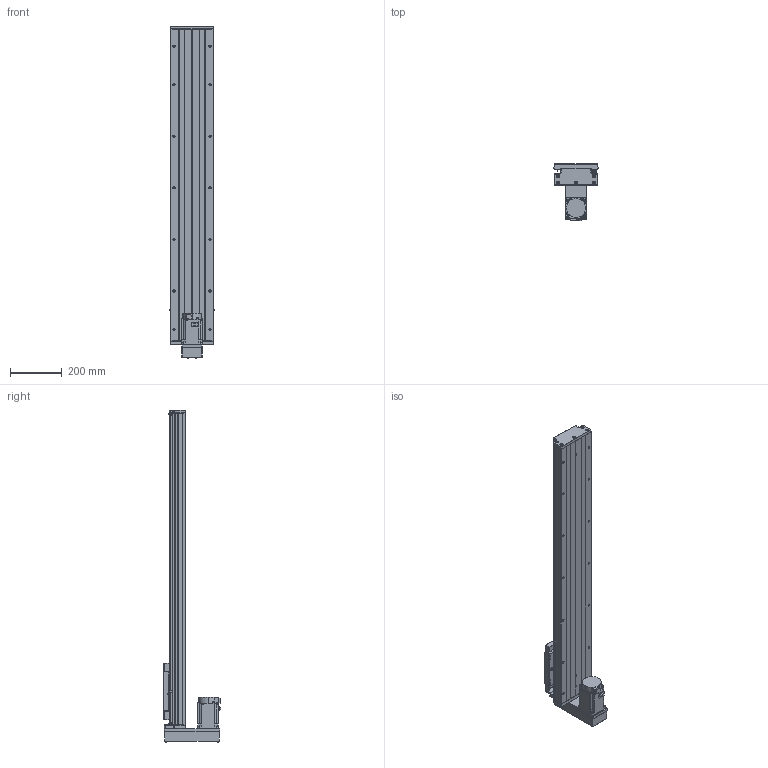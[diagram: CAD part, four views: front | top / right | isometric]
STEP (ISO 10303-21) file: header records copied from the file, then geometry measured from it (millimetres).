
FILE_DESCRIPTION (( 'STEP AP203' ), '1' );
FILE_NAME ('GTH17-950-BM-M75-C4.step', '2023-06-30T12:41:34', ( '微软用户' ), ( '微软中国' ), 'SwSTEP 2.0', 'SolidWorks 2020', '' );
FILE_SCHEMA (( 'CONFIG_CONTROL_DESIGN' ));
Length unit declared in the file: millimetre
Products named in the file (19): GTH17-001_950; CTHA60-016; HG-KN73J-S100; GTH17-002_GTH17-002; GBT 70.1-M3℅5; GBT 70.2-M4¡Á45_M4¡Á35; GTH17-004; GBT77-2000 M3×3; GTH17-015-2_CTHA86-015-2; GTH17-005; GBT 70.1-M6¡Á20_M6¡Á20; GTH17-033; GB1155-6X6; GTH17-031; GTH17-950-BM-M75-C4; CTHA60-017; GBT 70.2-M3¡Á5_M3¡Á6; EE_SX911P_R; す晦芛蹟隊 M3℅5
Assembly tree (58 placements, depth 2):
  GTH17-950-BM-M75-C4
    GTH17-001_950
    GTH17-002_GTH17-002
    GTH17-004
    GTH17-005
    GB1155-6X6  x2
    CTHA60-017  x3
    EE_SX911P_R  x3
    CTHA60-016  x2
    GBT 70.1-M3℅5  x6
    GBT77-2000 M3×3  x6
    GBT 70.1-M6¡Á20_M6¡Á20  x10
    GTH17-031
    GBT 70.2-M3¡Á5_M3¡Á6  x8
    す晦芛蹟隊 M3℅5  x6
    HG-KN73J-S100
    GBT 70.2-M4¡Á45_M4¡Á35  x4
    GTH17-015-2_CTHA86-015-2
    GTH17-033
Bounding box: 171 x 222.3 x 1288.2 mm (x, y, z)
Volume: 10552561.7 mm3; surface area: 1421741.7 mm2
Topology: 61 solids, 61 shells, 2459 faces, 5869 edges, 3635 vertices
Faces by surface type: plane 1312, cylinder 674, cone 297, torus 124, sphere 32, bspline 20
Entity records: 45046 total; most frequent: CARTESIAN_POINT 10416, DIRECTION 6541, ORIENTED_EDGE 6450, EDGE_CURVE 3225, AXIS2_PLACEMENT_3D 2238, LINE 2065, VECTOR 2065, VERTEX_POINT 2047
